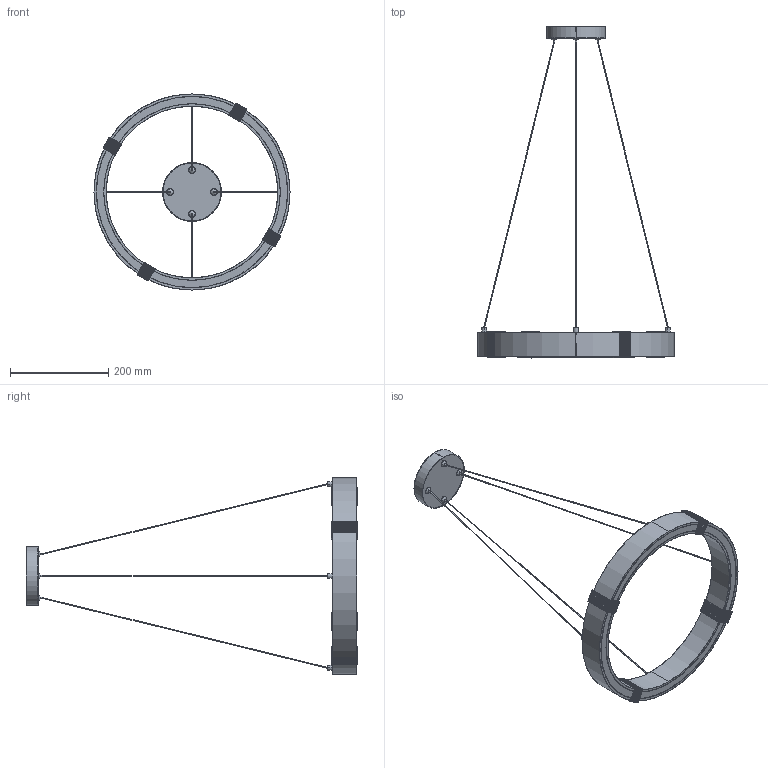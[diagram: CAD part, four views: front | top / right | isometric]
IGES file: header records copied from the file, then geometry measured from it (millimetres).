
Start section: SolidWorks IGES file using analytic representation for surfaces
Global section: file name: F:\燠隴矨\3D\2025-6\Circle Travertine Pendant Lamp-D40cm.IGS,15; native system: HSolidWorks 2022; preprocessor: SolidWorks 2022; author: MyPC; date: 250604.173353; units: millimetre
Bounding box: 400 x 677 x 400 mm (x, y, z)
Surface area: 416745.7 mm2 (no closed solid volume)
Topology: 0 solids, 0 shells, 737 faces, 7968 edges, 7968 vertices
Faces by surface type: revolution 464, bspline 273
